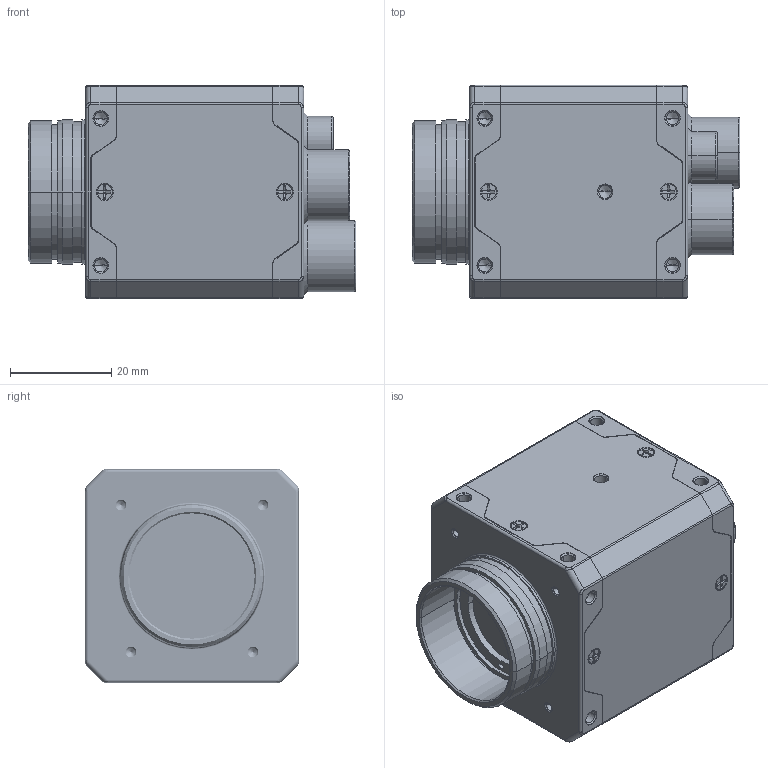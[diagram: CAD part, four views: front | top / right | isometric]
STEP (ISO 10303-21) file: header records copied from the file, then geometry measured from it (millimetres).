
FILE_DESCRIPTION((''),'2;1');
FILE_NAME('00-MV-CT050G-24GMC01-MAX_ASM','2025-06-16T13:39:44',('xujianping6'),(''),'CREO PARAMETRIC BY PTC INC, 2020044','CREO PARAMETRIC BY PTC INC, 2020044','');
FILE_SCHEMA(('CONFIG_CONTROL_DESIGN'));
Products named in the file (23): QIANGAI-NAA-MAX; LVGUANGPIAN; LGP_YABAN; QIANDUANZUJIAN-MAX_ASM; ZHONGKUANG-MAX; ZHONGKUANGZUJIAN-MAX_ASM; HOUGAI-MAX; PCB-MV-23517-REV10; 100600296; SGN-M12-NEW3-20241128; SGN-M8-NEWS5-20241205; MV-23517-REV10_ASM; MV-ZHUBAN-REV10_ASM; BANJINZHIJIA-FPC-ASM_ASM; PCB-MV-JIEKOUBAN-MAX-REV10; CNT-MAX-M12-20241220_ASM; ORING-7D5-1D5; MV-JIEKOUBAN-MAX-REV10_ASM; D-01-35-26-0837; SC-T1M2X4NL-B; HOUGAIZUJIAN-MAX_ASM; DE-19-001087; 00-MV-CT050G-24GMC01-MAX_ASM
Assembly tree (30 placements, depth 5):
  00-MV-CT050G-24GMC01-MAX_ASM
    QIANDUANZUJIAN-MAX_ASM
      QIANGAI-NAA-MAX
      LVGUANGPIAN
      LGP_YABAN
    ZHONGKUANGZUJIAN-MAX_ASM
      ZHONGKUANG-MAX
    HOUGAIZUJIAN-MAX_ASM
      HOUGAI-MAX
      MV-ZHUBAN-REV10_ASM
        MV-23517-REV10_ASM
          PCB-MV-23517-REV10
          100600296
          SGN-M12-NEW3-20241128
          SGN-M8-NEWS5-20241205
      BANJINZHIJIA-FPC-ASM_ASM
      MV-JIEKOUBAN-MAX-REV10_ASM
        PCB-MV-JIEKOUBAN-MAX-REV10
        CNT-MAX-M12-20241220_ASM
        ORING-7D5-1D5
      D-01-35-26-0837
      SC-T1M2X4NL-B  x2
    DE-19-001087  x8
Bounding box: 64.66 x 42 x 42 mm (x, y, z)
Volume: 30545.7 mm3; surface area: 37134.3 mm2
Topology: 22 solids, 99 shells, 3732 faces, 9862 edges, 6361 vertices
Faces by surface type: plane 1613, cylinder 1430, cone 428, torus 105, extrusion 74, bspline 60, sphere 22
Entity records: 117482 total; most frequent: CARTESIAN_POINT 30904, DIRECTION 18621, ORIENTED_EDGE 17694, EDGE_CURVE 8956, AXIS2_PLACEMENT_3D 6983, VERTEX_POINT 5884, VECTOR 4655, LINE 4581
